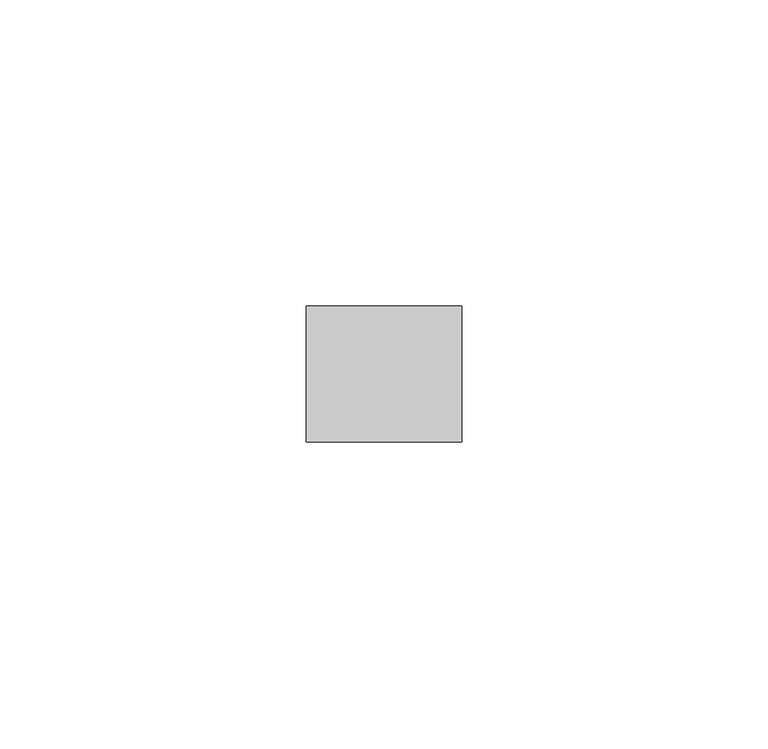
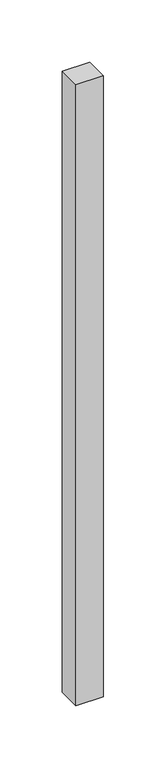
"""IFC4 building model written with IfcOpenShell, lengths in millimetres: proxy geometry, CANTILEVER - (H-QMCB-1)."""

from ifc_helpers import new_model, si_unit, origin, origin_with_axes, place, context, project, spatial, polyline, outline, extrude, source, transform, mapped, element, save


def generic_models_5e53eeca(model_context):
    return source(origin(), model_context, "Body", "SweptSolid", [
        extrude(outline(polyline([(25.4, 0.0), (0.0, 0.0), (0.0, 22.225), (25.4, 22.225), (25.4, 0.0)])), origin_with_axes(), (0.0, 0.0, 1.0), 609.6),
    ])


if __name__ == "__main__":
    model = new_model("IFC4")
    model_context = context("Model", 3, world=origin())
    ifc_project = project(units=[si_unit("LENGTHUNIT", "METRE", prefix="MILLI")], contexts=[model_context])
    site = spatial("IfcSite", under=ifc_project)
    building = spatial("IfcBuilding", under=site)
    placement = place(None, origin())
    generic_models_shape = generic_models_5e53eeca(model_context)
    element("IfcBuildingElementProxy", 1, Name="CANTILEVER - (H-QMCB-1)", ObjectType="CANTILEVER - (H-QMCB-1)", at=placement, inside=building, context=model_context, shape_type="MappedRepresentation", body=[
        mapped(generic_models_shape, transform((0.0, 0.0, 0.0), x_axis=(1.0, 0.0, 0.0), y_axis=(0.0, 1.0, 0.0), z_axis=(0.0, 0.0, 1.0))),
    ])
    save(model, "model.ifc")
